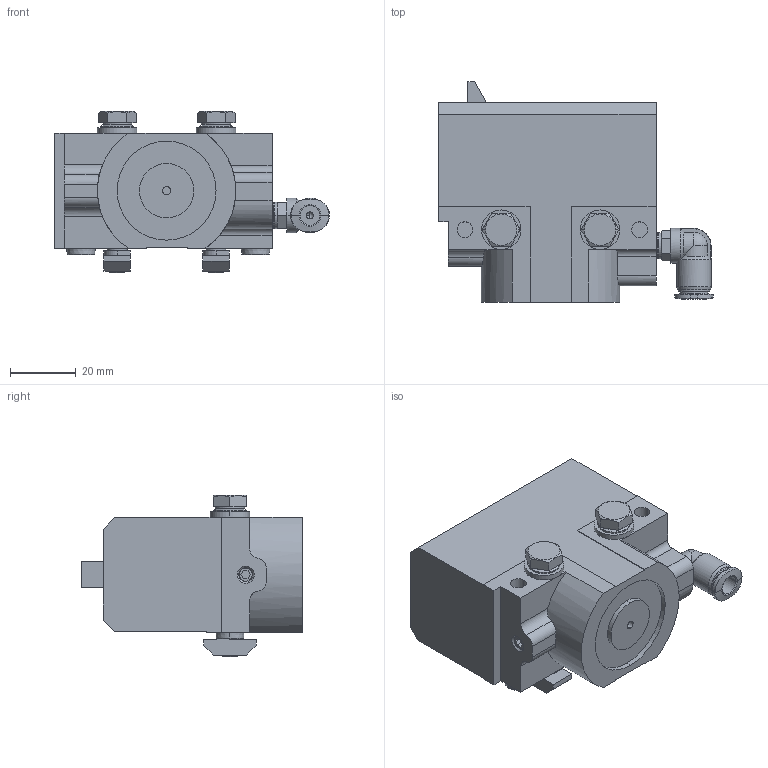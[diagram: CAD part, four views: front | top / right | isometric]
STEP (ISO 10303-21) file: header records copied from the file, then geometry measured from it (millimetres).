
FILE_DESCRIPTION (( 'STEP AP203' ), '1' );
FILE_NAME ('ASUTEC_ASMNG-15-EW-07-100.STEP', '2020-06-17T10:00:57', ( '' ), ( '' ), 'SwSTEP 2.0', 'SolidWorks 2020', '' );
FILE_SCHEMA (( 'CONFIG_CONTROL_DESIGN' ));
Length unit declared in the file: millimetre
Products named in the file (1): ASUTEC_ASMNG-15-EW-07-100
Bounding box: 83.4 x 67 x 49 mm (x, y, z)
Volume: 105668.4 mm3; surface area: 45336.4 mm2
Topology: 15 solids, 15 shells, 759 faces, 1929 edges, 1258 vertices
Faces by surface type: plane 338, cylinder 184, bspline 145, cone 67, sphere 14, torus 11
Entity records: 29461 total; most frequent: CARTESIAN_POINT 11860, ORIENTED_EDGE 3838, DIRECTION 3214, EDGE_CURVE 1919, VERTEX_POINT 1254, AXIS2_PLACEMENT_3D 1072, LINE 1070, VECTOR 1070
